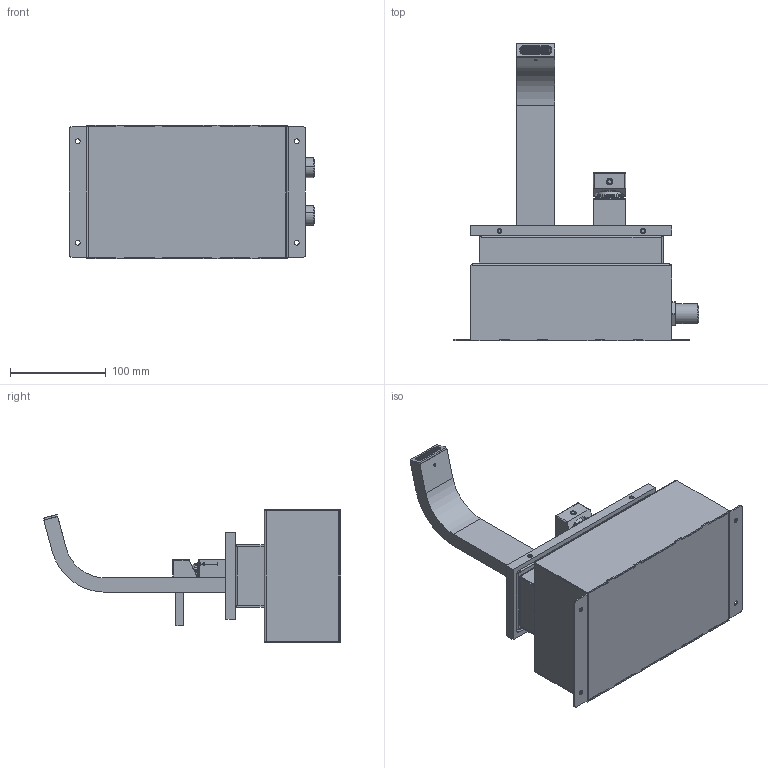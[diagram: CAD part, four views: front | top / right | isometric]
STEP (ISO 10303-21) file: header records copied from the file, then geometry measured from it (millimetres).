
FILE_DESCRIPTION (( 'STEP AP203' ), '1' );
FILE_NAME ('H4U11.STEP', '2016-10-21T09:34:56', ( '' ), ( '' ), 'SwSTEP 2.0', 'SolidWorks 2014', '' );
FILE_SCHEMA (( 'CONFIG_CONTROL_DESIGN' ));
Length unit declared in the file: millimetre
Products named in the file (41): EU1282_0; AS468_00; EU0103_0; EU0067_00; DADGAB5x83; EU0107_3; EU0135_0; CARTNUB001; DADO12H4; 02328000002; EU0110_1; EU0124_0; AS467_00; VITETC5x40; AS300_00; OR765178ACS; H4U11; EU0759_0; EU0134_0; EU1283_0; RONDFIB1; GRANCO M5X8 ACCIAIO; EU0120_0; EU0608_0; EU0601_1; VITETC6X10; EU0040_3; VITETC4X16; GRANO M5x6; EU0133_0; EU004_00; GRANO M3 X 6; EU1281_1; EU0402_1; EU0109_0; EU0604_0; EU0620_00; EU0104_1; EU1280_0; TAPPHITO01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
Assembly tree (57 placements, depth 4):
  H4U11
    EU0601_1
    EU0103_0
    EU0120_0
    EU0109_0
    EU0119_2
    CARTNUB001
    EU0402_1
    EU0604_0
    EU004_00
      GRANO M5x6  x2
      EU0104_1
      EU0110_1
      TAPPHITO01
    EU0620_00
      EU0608_0
      EU0135_0
      EU0134_0
      EU0133_0
      OR765178ACS
    VITETC4X16  x4
    VITETC6X10  x2
    GRANCO M5X8 ACCIAIO  x2
    AS300_00
      EU0124_0
      EU0067_00
        EU0107_3
        02328000002
        EU0040_3  x2
      GRANO M3 X 6
    RONDFIB1
    EU0759_0
    AS468_00
      AS467_00
        EU1281_1
        EU1282_0
      EU1283_0
      VITETC5x40  x2
      RONDFIB1  x2
      DADGAB5x83  x6
      EU1280_0  x2
      DADO12H4  x2
Bounding box: 257 x 310.76 x 140 mm (x, y, z)
Volume: 459684.2 mm3; surface area: 477177.9 mm2
Topology: 54 solids, 54 shells, 3189 faces, 8420 edges, 5341 vertices
Faces by surface type: plane 1547, cylinder 1135, cone 239, torus 200, bspline 34, sphere 34
Entity records: 87194 total; most frequent: CARTESIAN_POINT 16662, DIRECTION 13849, ORIENTED_EDGE 13520, EDGE_CURVE 6760, AXIS2_PLACEMENT_3D 4917, VERTEX_POINT 4297, VECTOR 4015, LINE 4015
